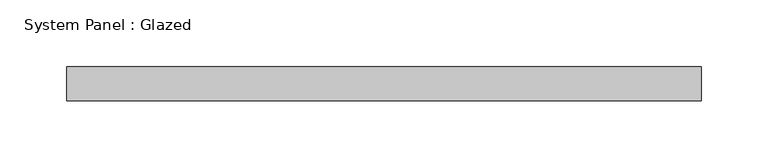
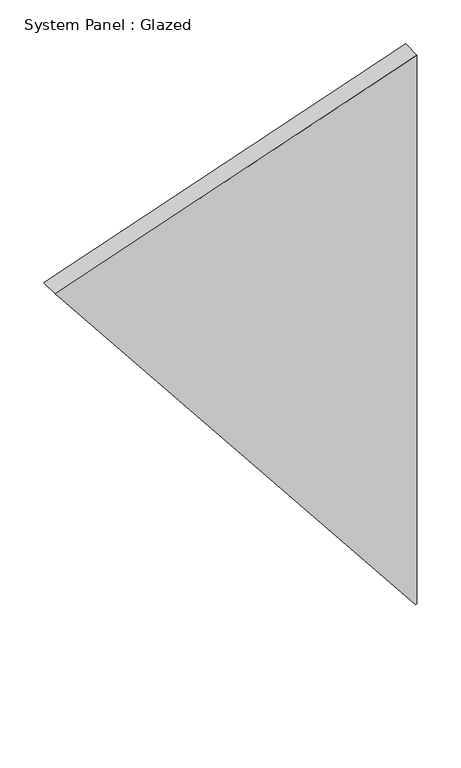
"""IFC4 building model written with IfcOpenShell, lengths in millimetres: plate geometry, System Panel : Glazed."""

from ifc_helpers import new_model, si_unit, frame, origin, place, context, project, spatial, polyline, outline, extrude, source, transform, mapped, element, save


def system_panel_glazed_236f582e(model_context):
    return source(origin(), model_context, "Body", "SweptSolid", [
        extrude(outline(polyline([(0.0, 236.0989332), (0.5512144, 237.6820292), (763.3943351, 237.6758318), (597.8806122, -237.6820292), (0.0, 236.0989332)])), frame((0.0, -44.45, 0.0), z_axis=(0.0, 1.0, 0.0), x_axis=(0.0, 0.0, 1.0)), (0.0, 0.0, 1.0), 25.4),
    ])


if __name__ == "__main__":
    model = new_model("IFC4")
    model_context = context("Model", 3, world=origin())
    ifc_project = project(units=[si_unit("LENGTHUNIT", "METRE", prefix="MILLI")], contexts=[model_context])
    site = spatial("IfcSite", under=ifc_project)
    building = spatial("IfcBuilding", under=site)
    placement = place(None, origin())
    system_panel_glazed_shape = system_panel_glazed_236f582e(model_context)
    element("IfcPlate", 1, ObjectType="System Panel : Glazed", at=placement, inside=building, context=model_context, shape_type="MappedRepresentation", body=[
        mapped(system_panel_glazed_shape, transform((0.0, 0.0, 0.0), x_axis=(1.0, 0.0, 0.0), y_axis=(0.0, 1.0, 0.0), z_axis=(0.0, 0.0, 1.0))),
    ])
    save(model, "model.ifc")
